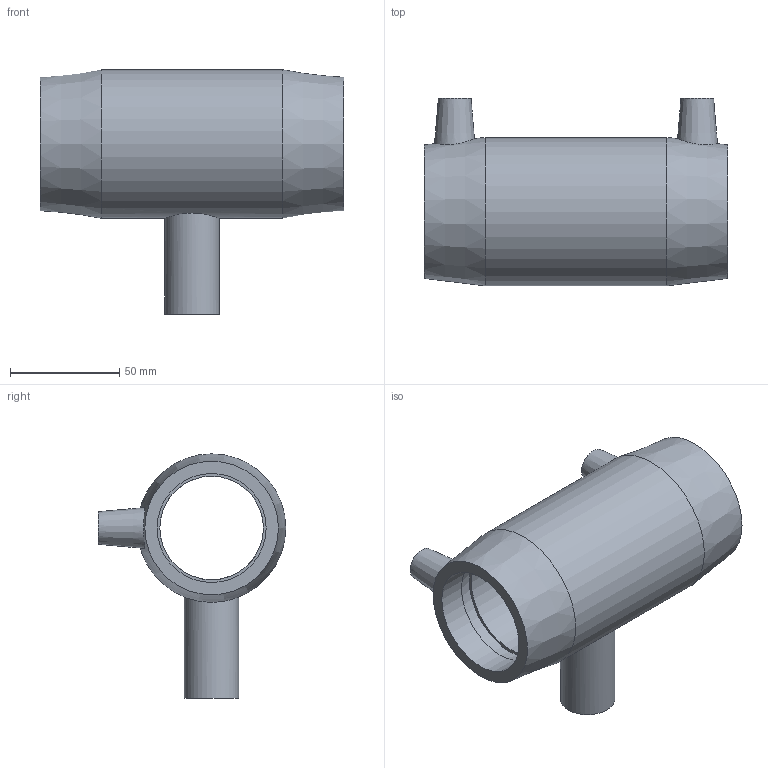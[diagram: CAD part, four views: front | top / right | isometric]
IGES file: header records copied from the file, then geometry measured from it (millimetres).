
Global section: file name: 491404050025.ipt; native system: Autodesk Inventor 2015; preprocessor: unknown; author: KIM; date: 20190909.112824; units: millimetre
Bounding box: 139 x 86 x 112 mm (x, y, z)
Volume: 230831.9 mm3; surface area: 63059.1 mm2
Topology: 1 solids, 1 shells, 31 faces, 72 edges, 52 vertices
Faces by surface type: plane 13, revolution 10, cylinder 4, cone 4
Full cylindrical faces by diameter (mm): 4 x2, 25 x1, 68 x1
